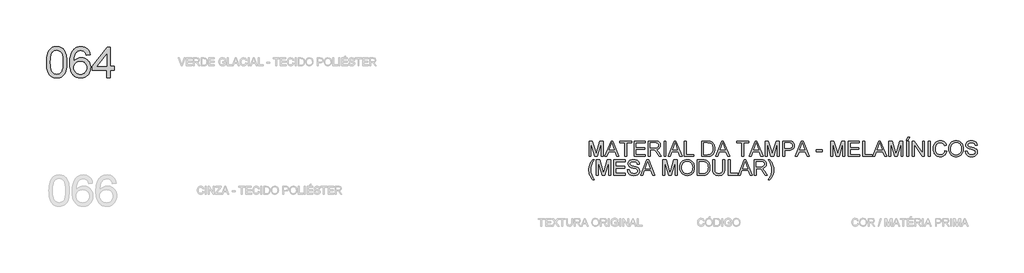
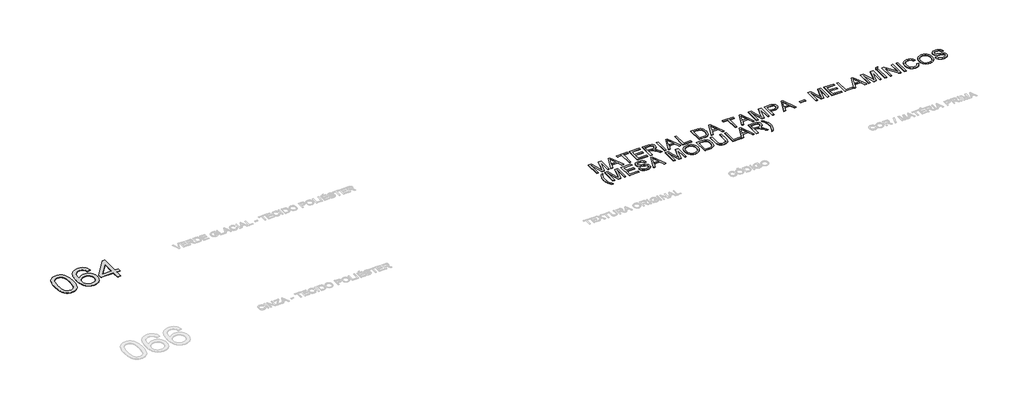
# One storey, part 38 of 67: 2 proxies.
"""IFC4 building model written with IfcOpenShell, lengths in millimetres."""

from ifc_helpers import new_model, si_unit, origin, origin_with_axes, place, context, project, spatial, polyline, outline, extrude, element, save

model = new_model("IFC4")

# Units and contexts
model_context = context("Model", 3, world=origin())
ifc_project = project(units=[si_unit("LENGTHUNIT", "METRE", prefix="MILLI")], contexts=[model_context])

# Site, building, storey
site = spatial("IfcSite", under=ifc_project)
building = spatial("IfcBuilding", under=site)
storey = spatial("IfcBuildingStorey", under=building, Name="Marelli - Linha COLAB - Planta Baixa", Elevation=0.0)

# Proxies
placement = place(None, origin())
element("IfcBuildingElementProxy", 1, Name="1200mm Arial", ObjectType="1200mm Arial", at=placement, inside=storey, context=model_context, shape_type="SweptSolid", body=[
    extrude(outline(polyline([(-275.30917, -77395.792664), (-272.540858, -77294.4319773), (-264.2359219, -77202.8385576), (-250.3943618, -77121.0124048), (-231.0161777, -77048.953519), (-206.1841431, -76986.073289), (-175.9810313, -76931.7831035), (-140.4068423, -76886.0829627), (-99.4615763, -76848.9728664), (-53.0072773, -76820.2596767), (-0.9059898, -76799.7502555), (56.8422864, -76787.4446027), (120.2375512, -76783.3427185), (167.8782696, -76785.7707396), (213.0909668, -76793.0548031), (255.8756429, -76805.194909), (296.2322977, -76822.1910572), (333.1860442, -76843.7581391), (365.7619948, -76869.6110463), (393.9601498, -76899.7497788), (417.7805089, -76934.1743365), (438.4186889, -76972.7467637), (457.070306, -77015.3291046), (488.413852, -77112.5235278), (500.388411, -77169.6831928), (508.9416673, -77235.9479371), (514.0736212, -77311.3177609), (515.7842725, -77395.792664), (513.0435516, -77496.5095573), (504.821389, -77587.6431245), (491.1177847, -77669.1933658), (471.9327386, -77741.1602811), (447.293842, -77804.0681023), (417.228686, -77858.4410612), (381.7372705, -77904.2791578), (340.8195956, -77941.5823921), (294.3101143, -77970.4887199), (242.0432798, -77991.1360968), (184.0190922, -78003.524523), (120.2375512, -78007.6539984), (77.5632398, -78005.8605737), (37.2433731, -78000.4802995), (-0.7220488, -77991.5131759), (-36.3330259, -77978.9592028), (-69.5895583, -77962.8183803), (-100.4916459, -77943.0907083), (-129.0392887, -77919.7761868), (-155.2324867, -77892.8748159), (-183.3754594, -77850.2786794), (-207.7660357, -77802.0999336), (-228.4042156, -77748.3385785), (-245.2899992, -77688.9946142), (-258.4233864, -77624.0680406), (-267.8043773, -77553.5588577), (-273.4329718, -77477.4670655), (-275.30917, -77395.792664)]), holes=[polyline([(-124.6247047, -77395.4983584), (-120.2101208, -77526.4919399), (-106.966369, -77632.5247279), (-97.0335551, -77676.1808245), (-84.8934493, -77713.5967226), (-70.5460515, -77744.7724225), (-53.9913617, -77769.7079239), (-16.614551, -77807.884878), (24.8825381, -77835.1541309), (70.4999055, -77851.5156826), (120.2375512, -77856.9695332), (169.975197, -77851.4972885), (215.5925644, -77835.0805545), (257.0896535, -77807.7193311), (294.4664642, -77769.4136183), (311.0211539, -77744.418336), (325.3685518, -77713.2104465), (337.5086576, -77675.7899498), (347.4414715, -77632.1568459), (360.6852233, -77526.2528166), (365.0998072, -77395.4983584), (360.8323761, -77267.9720648), (348.0300827, -77163.8062779), (338.4283626, -77120.4835744), (326.6929269, -77083.0009976), (312.8237757, -77051.3585475), (296.8209089, -77025.5562241), (260.0694976, -76985.5122689), (218.094162, -76956.9094438), (170.894902, -76939.7477487), (118.4717177, -76934.0271837), (68.9915893, -76939.067167), (24.1467741, -76954.187117), (-16.062728, -76979.3870337), (-51.6369169, -77014.666917), (-68.7434297, -77043.2145599), (-83.5690741, -77077.2068562), (-96.1138501, -77116.6438061), (-106.3777578, -77161.5254095), (-120.062968, -77267.6225769), (-124.6247047, -77395.4983584)])]), origin_with_axes(), (0.0, 0.0, 1.0), 10.0),
    extrude(outline(polyline([(1419.8910638, -77103.5472071), (1269.2065986, -77122.3827652), (1258.1333505, -77082.0812927), (1244.9263869, -77047.7027202), (1229.5857077, -77019.2470479), (1212.1113129, -76996.7142757), (1179.7193033, -76969.2886729), (1143.7588382, -76949.6989567), (1104.2299178, -76937.9451269), (1061.1325421, -76934.0271837), (1025.5951414, -76936.3080521), (991.0878102, -76943.1506572), (957.6105487, -76954.554999), (925.1633567, -76970.5210776), (895.5580531, -76996.6315022), (868.5463176, -77028.1681863), (844.1281502, -77065.1311297), (822.3035508, -77107.5203326), (804.2313478, -77158.1316981), (791.0703695, -77219.7611293), (782.8206157, -77292.4086263), (779.4820866, -77376.0741891), (808.2044734, -77338.2099347), (839.9250984, -77305.5512106), (874.6439617, -77278.0980167), (912.3610633, -77255.8503531), (952.0647276, -77238.6610669), (992.7432792, -77226.3830053), (1034.3967181, -77219.0161683), (1077.0250443, -77216.560556), (1113.9236084, -77218.2390176), (1149.424221, -77223.2744024), (1183.5268819, -77231.6667104), (1216.2315913, -77243.4159416), (1247.5383491, -77258.5220961), (1277.4471553, -77276.9851737), (1305.9580099, -77298.8051745), (1333.0709129, -77323.9820986), (1357.8339697, -77351.81697), (1379.2952856, -77381.6108131), (1397.4548606, -77413.3636278), (1412.3126947, -77447.0754142), (1423.8687879, -77482.7461721), (1432.1231401, -77520.3759017), (1437.0757515, -77559.9646029), (1438.726622, -77601.5122757), (1435.6180191, -77656.4462547), (1426.2922105, -77709.4120649), (1410.7491962, -77760.4097065), (1388.9889762, -77809.4391794), (1361.7841027, -77854.6702707), (1329.9071278, -77894.2727675), (1293.3580516, -77928.2466698), (1252.136874, -77956.5919775), (1207.1265119, -77978.9316116), (1159.209882, -77994.8884932), (1108.3869844, -78004.4626221), (1054.657819, -78007.6539984), (1008.6564748, -78005.5386769), (964.8302328, -77999.1927125), (923.1790932, -77988.6161052), (883.7030558, -77973.8088549), (846.4021208, -77954.7709616), (811.276288, -77931.5024254), (778.3255576, -77904.0032463), (747.5499294, -77872.2734242), (719.7173572, -77835.6875598), (695.5957947, -77793.6202536), (675.1852417, -77746.0715057), (658.4856984, -77693.0413161), (645.4971647, -77634.5296848), (636.2196406, -77570.5366117), (630.6531262, -77501.062097), (628.7976214, -77426.1061404), (630.8577606, -77342.1784618), (637.0381781, -77264.1828803), (647.3388739, -77192.1193959), (661.7598481, -77125.9880088), (680.3011007, -77065.7887188), (702.9626316, -77011.521526), (729.7444409, -76963.1864303), (760.6465284, -76920.7834319), (790.6611007, -76888.5707647), (823.1680735, -76860.6531198), (858.1674468, -76837.0304971), (895.6592207, -76817.7028968), (935.643395, -76802.6703188), (978.1199699, -76791.9327631), (1023.0889453, -76785.4902296), (1070.5503212, -76783.3427185), (1139.9512596, -76788.6586133), (1202.7671103, -76804.6062978), (1258.9978732, -76831.1857719), (1308.6435485, -76868.3970358), (1350.3613667, -76914.9892904), (1382.8085587, -76969.7117372), (1405.9851244, -77032.5643761), (1419.8910638, -77103.5472071)]), holes=[polyline([(779.4820866, -77599.157831), (781.6617874, -77632.9202011), (788.2008899, -77665.9284131), (799.099394, -77698.182467), (814.3572997, -77729.6823629), (833.2296461, -77758.9473756), (854.971472, -77784.4967801), (879.5827775, -77806.3305766), (907.0635625, -77824.4487648), (937.2390832, -77838.676601), (969.9345955, -77848.8393411), (1005.1500995, -77854.9369852), (1042.8855951, -77856.9695332), (1095.2627942, -77852.7572843), (1142.3240984, -77840.1205378), (1184.0695078, -77819.0592936), (1220.4990224, -77789.5735517), (1250.0491437, -77752.8589286), (1271.1563732, -77710.1110407), (1283.8207108, -77661.3298882), (1288.0421567, -77606.5154709), (1283.8758931, -77553.8439662), (1271.3771024, -77507.0769676), (1250.5457844, -77466.214475), (1221.3819392, -77431.2564884), (1184.84206, -77403.2514715), (1141.8826401, -77383.247888), (1092.5036792, -77371.2457379), (1036.7051776, -77367.2450212), (985.0269544, -77371.2457379), (937.4138271, -77383.247888), (893.865796, -77403.2514715), (854.3828608, -77431.2564884), (821.6137721, -77465.7546225), (798.2072802, -77505.2375576), (784.163385, -77549.7052938), (779.4820866, -77599.157831)])]), origin_with_axes(), (0.0, 0.0, 1.0), 10.0),
    extrude(outline(polyline([(2060.300041, -77988.8184403), (2060.300041, -77706.285068), (1514.0688546, -77706.285068), (1514.0688546, -77555.6006027), (2097.9711573, -76802.1782766), (2210.9845062, -76802.1782766), (2210.9845062, -77555.6006027), (2361.6689715, -77555.6006027), (2361.6689715, -77706.285068), (2210.9845062, -77706.285068), (2210.9845062, -77988.8184403), (2060.300041, -77988.8184403)]), holes=[polyline([(2060.300041, -77555.6006027), (2060.300041, -77090.0091496), (1699.4813801, -77555.6006027), (2060.300041, -77555.6006027)])]), origin_with_axes(), (0.0, 0.0, 1.0), 10.0),
])
element("IfcBuildingElementProxy", 2, Name="600mm Arial", ObjectType="600mm Arial", at=placement, inside=storey, context=model_context, shape_type="SweptSolid", body=[
    extrude(outline(polyline([(20848.8543952, -81064.6418665), (20848.8543952, -80461.9040056), (20978.4960103, -80461.9040056), (21101.8100551, -80886.7341337), (21126.678878, -80975.4672709), (21153.60784, -80879.3764938), (21274.8617456, -80461.9040056), (21404.5033607, -80461.9040056), (21404.5033607, -81064.6418665), (21329.1611281, -81064.6418665), (21329.1611281, -80537.2462382), (21177.7408989, -81064.6418665), (21075.6168571, -81064.6418665), (20924.1966278, -80537.2462382), (20924.1966278, -81064.6418665), (20848.8543952, -81064.6418665)])), origin_with_axes(), (0.0, 0.0, 1.0), 10.0),
    extrude(outline(polyline([(21466.1603831, -81064.6418665), (21706.755208, -80461.9040056), (21770.9138279, -80461.9040056), (22011.5086528, -81064.6418665), (21931.898989, -81064.6418665), (21862.8843267, -80876.286285), (21614.6375564, -80876.286285), (21545.7700469, -81064.6418665), (21466.1603831, -81064.6418665)]), holes=[polyline([(21642.3022824, -80800.9440524), (21835.3667535, -80800.9440524), (21781.067371, -80652.7611847), (21738.834518, -80537.2462382), (21701.3105544, -80639.8117385), (21642.3022824, -80800.9440524)])]), origin_with_axes(), (0.0, 0.0, 1.0), 10.0),
    extrude(outline(polyline([(22242.6856985, -81064.6418665), (22242.6856985, -80537.2462382), (22044.9123379, -80537.2462382), (22044.9123379, -80461.9040056), (22515.8012918, -80461.9040056), (22515.8012918, -80537.2462382), (22318.0279312, -80537.2462382), (22318.0279312, -81064.6418665), (22242.6856985, -81064.6418665)])), origin_with_axes(), (0.0, 0.0, 1.0), 10.0),
    extrude(outline(polyline([(22600.5613035, -81064.6418665), (22600.5613035, -80461.9040056), (23033.779141, -80461.9040056), (23033.779141, -80537.2462382), (22675.9035361, -80537.2462382), (22675.9035361, -80716.1840407), (23014.9435828, -80716.1840407), (23014.9435828, -80791.5262733), (22675.9035361, -80791.5262733), (22675.9035361, -80989.2996339), (23043.1969201, -80989.2996339), (23043.1969201, -81064.6418665), (22600.5613035, -81064.6418665)])), origin_with_axes(), (0.0, 0.0, 1.0), 10.0),
    extrude(outline(polyline([(23156.210269, -81064.6418665), (23156.210269, -80461.9040056), (23415.9349576, -80461.9040056), (23485.7405662, -80465.9691017), (23536.5266756, -80478.1643898), (23556.1255889, -80487.8580804), (23573.6459689, -80500.6787679), (23589.0878156, -80516.6264524), (23602.4511291, -80535.7011339), (23613.2346701, -80556.8773412), (23620.9371994, -80579.1296034), (23625.5587169, -80602.4579204), (23627.0992228, -80626.8622923), (23624.5470415, -80657.8195622), (23616.8904974, -80686.2384463), (23604.1295907, -80712.1189447), (23586.2643213, -80735.4610572), (23563.064763, -80755.519823), (23534.3009895, -80771.550281), (23499.9730008, -80783.5524311), (23460.080797, -80791.5262733), (23484.9128317, -80807.7498693), (23502.9022612, -80823.7527361), (23533.7675606, -80860.3569946), (23563.9706724, -80901.3022607), (23664.4760335, -81064.6418665), (23576.9201187, -81064.6418665), (23498.4876773, -80939.709141), (23441.83385, -80857.0092685), (23420.7726058, -80832.8946037), (23402.0290181, -80817.9402006), (23366.1973118, -80803.5928028), (23322.4929308, -80800.9440524), (23231.5525016, -80800.9440524), (23231.5525016, -81064.6418665), (23156.210269, -81064.6418665)]), holes=[polyline([(23231.5525016, -80725.6018198), (23400.1896082, -80725.6018198), (23448.6212728, -80722.9346753), (23486.2004186, -80714.9332419), (23514.4905441, -80701.0640907), (23535.0551476, -80680.7937928), (23547.5815295, -80656.2744578), (23551.7569902, -80629.6581954), (23549.7658289, -80610.3903759), (23543.792345, -80592.9067841), (23533.8365385, -80577.20742), (23519.8984094, -80563.2922835), (23501.656061, -80551.8971387), (23478.7875964, -80543.7577496), (23451.2930158, -80538.8741161), (23419.1723191, -80537.2462382), (23231.5525016, -80537.2462382), (23231.5525016, -80725.6018198)])]), origin_with_axes(), (0.0, 0.0, 1.0), 10.0),
    extrude(outline(polyline([(23768.3659089, -81064.6418665), (23768.3659089, -80461.9040056), (23843.7081416, -80461.9040056), (23843.7081416, -81064.6418665), (23768.3659089, -81064.6418665)])), origin_with_axes(), (0.0, 0.0, 1.0), 10.0),
    extrude(outline(polyline([(23924.2007221, -81064.6418665), (24164.7955469, -80461.9040056), (24228.9541669, -80461.9040056), (24469.5489918, -81064.6418665), (24389.939328, -81064.6418665), (24320.9246657, -80876.286285), (24072.6778954, -80876.286285), (24003.8103859, -81064.6418665), (23924.2007221, -81064.6418665)]), holes=[polyline([(24100.3426214, -80800.9440524), (24293.4070925, -80800.9440524), (24239.10771, -80652.7611847), (24196.8748569, -80537.2462382), (24159.3508934, -80639.8117385), (24100.3426214, -80800.9440524)])]), origin_with_axes(), (0.0, 0.0, 1.0), 10.0),
    extrude(outline(polyline([(24550.0415723, -81064.6418665), (24550.0415723, -80461.9040056), (24625.3838049, -80461.9040056), (24625.3838049, -80989.2996339), (24926.7527354, -80989.2996339), (24926.7527354, -81064.6418665), (24550.0415723, -81064.6418665)])), origin_with_axes(), (0.0, 0.0, 1.0), 10.0),
    extrude(outline(polyline([(25246.957224, -81064.6418665), (25246.957224, -80461.9040056), (25454.8841276, -80461.9040056), (25517.0193966, -80464.0745094), (25562.452823, -80470.5860207), (25610.4982116, -80487.3246515), (25651.0388075, -80513.7017906), (25673.3784416, -80535.2596755), (25692.7198375, -80559.6134636), (25709.0629952, -80586.7631548), (25722.4079145, -80616.7087492), (25732.7729897, -80649.1743353), (25740.1766149, -80683.8840015), (25746.099515, -80760.0355745), (25742.0896013, -80824.7276234), (25730.05986, -80881.6573621), (25711.7393367, -80930.125815), (25688.8570766, -80969.4340062), (25662.5167257, -81000.4648525), (25633.8219301, -81024.1012707), (25600.8780974, -81041.6308477), (25561.7906354, -81054.3411707), (25516.4859677, -81062.0666926), (25464.8905179, -81064.6418665), (25246.957224, -81064.6418665)]), holes=[polyline([(25322.2994566, -80989.2996339), (25455.6198916, -80989.2996339), (25510.7654027, -80986.5773072), (25552.5935856, -80978.4103269), (25584.1578607, -80965.2769396), (25608.5116488, -80947.6553921), (25634.6864528, -80915.0426532), (25654.3497454, -80872.8281942), (25666.6553982, -80820.8280742), (25670.7572824, -80758.8583521), (25668.747727, -80715.1171829), (25662.7190608, -80676.7470908), (25652.6712838, -80643.7480759), (25638.604396, -80616.120138), (25621.6588316, -80593.2378779), (25602.9750248, -80574.4758962), (25582.5529755, -80559.8341928), (25560.3926839, -80549.3127677), (25517.0561848, -80540.2628706), (25453.5597525, -80537.2462382), (25322.2994566, -80537.2462382), (25322.2994566, -80989.2996339)])]), origin_with_axes(), (0.0, 0.0, 1.0), 10.0),
    extrude(outline(polyline([(25779.5032002, -81064.6418665), (26020.098025, -80461.9040056), (26084.256645, -80461.9040056), (26324.8514698, -81064.6418665), (26245.2418061, -81064.6418665), (26176.2271438, -80876.286285), (25927.9803734, -80876.286285), (25859.1128639, -81064.6418665), (25779.5032002, -81064.6418665)]), holes=[polyline([(25955.6450995, -80800.9440524), (26148.7095705, -80800.9440524), (26094.410188, -80652.7611847), (26052.177335, -80537.2462382), (26014.6533715, -80639.8117385), (25955.6450995, -80800.9440524)])]), origin_with_axes(), (0.0, 0.0, 1.0), 10.0),
    extrude(outline(polyline([(26791.4729925, -81064.6418665), (26791.4729925, -80537.2462382), (26593.6996319, -80537.2462382), (26593.6996319, -80461.9040056), (27064.5885857, -80461.9040056), (27064.5885857, -80537.2462382), (26866.8152251, -80537.2462382), (26866.8152251, -81064.6418665), (26791.4729925, -81064.6418665)])), origin_with_axes(), (0.0, 0.0, 1.0), 10.0),
    extrude(outline(polyline([(27079.1567127, -81064.6418665), (27319.7515376, -80461.9040056), (27383.9101575, -80461.9040056), (27624.5049824, -81064.6418665), (27544.8953186, -81064.6418665), (27475.8806563, -80876.286285), (27227.633886, -80876.286285), (27158.7663765, -81064.6418665), (27079.1567127, -81064.6418665)]), holes=[polyline([(27255.298612, -80800.9440524), (27448.3630831, -80800.9440524), (27394.0637006, -80652.7611847), (27351.8308476, -80537.2462382), (27314.3068841, -80639.8117385), (27255.298612, -80800.9440524)])]), origin_with_axes(), (0.0, 0.0, 1.0), 10.0),
    extrude(outline(polyline([(27704.9975629, -81064.6418665), (27704.9975629, -80461.9040056), (27834.639178, -80461.9040056), (27957.9532228, -80886.7341337), (27982.8220457, -80975.4672709), (28009.7510077, -80879.3764938), (28131.0049133, -80461.9040056), (28260.6465284, -80461.9040056), (28260.6465284, -81064.6418665), (28185.3042958, -81064.6418665), (28185.3042958, -80537.2462382), (28033.8840666, -81064.6418665), (27931.7600248, -81064.6418665), (27780.3397955, -80537.2462382), (27780.3397955, -81064.6418665), (27704.9975629, -81064.6418665)])), origin_with_axes(), (0.0, 0.0, 1.0), 10.0),
    extrude(outline(polyline([(28392.4954355, -81064.6418665), (28392.4954355, -80461.9040056), (28615.873383, -80461.9040056), (28667.8918971, -80463.3387454), (28705.9308954, -80467.6429648), (28746.0852152, -80478.3667249), (28779.1394125, -80495.8227256), (28805.7556748, -80520.8019131), (28826.5961898, -80554.0952336), (28840.0606709, -80593.3666366), (28844.5488312, -80636.2800713), (28841.5184033, -80673.279803), (28832.4271195, -80707.3180846), (28817.2749798, -80738.3949162), (28796.0619842, -80766.5102976), (28766.9395258, -80789.815622), (28728.0589974, -80806.4622823), (28679.4203991, -80816.4502785), (28621.0237309, -80819.7796105), (28467.8376681, -80819.7796105), (28467.8376681, -81064.6418665), (28392.4954355, -81064.6418665)]), holes=[polyline([(28467.8376681, -80744.4373779), (28625.4383149, -80744.4373779), (28661.6746914, -80742.7083326), (28692.2456852, -80737.5211964), (28717.1512963, -80728.8759695), (28736.3915246, -80716.7726519), (28750.7481195, -80701.5331402), (28761.0028301, -80683.4793313), (28767.1556565, -80662.6112252), (28769.2065986, -80638.9288217), (28764.3689503, -80605.0836782), (28749.8560056, -80576.5360353), (28727.4703862, -80555.0517268), (28699.0147139, -80542.3965862), (28669.9520363, -80538.5338252), (28623.6724813, -80537.2462382), (28467.8376681, -80537.2462382), (28467.8376681, -80744.4373779)])]), origin_with_axes(), (0.0, 0.0, 1.0), 10.0),
    extrude(outline(polyline([(28877.9525164, -81064.6418665), (29118.5473412, -80461.9040056), (29182.7059612, -80461.9040056), (29423.300786, -81064.6418665), (29343.6911222, -81064.6418665), (29274.67646, -80876.286285), (29026.4296896, -80876.286285), (28957.5621801, -81064.6418665), (28877.9525164, -81064.6418665)]), holes=[polyline([(29054.0944156, -80800.9440524), (29247.1588867, -80800.9440524), (29192.8595042, -80652.7611847), (29150.6266512, -80537.2462382), (29113.1026877, -80639.8117385), (29054.0944156, -80800.9440524)])]), origin_with_axes(), (0.0, 0.0, 1.0), 10.0),
    extrude(outline(polyline([(29692.1489481, -80885.7040641), (29692.1489481, -80810.3618315), (29927.593425, -80810.3618315), (29927.593425, -80885.7040641), (29692.1489481, -80885.7040641)])), origin_with_axes(), (0.0, 0.0, 1.0), 10.0),
    extrude(outline(polyline([(30257.2156927, -81064.6418665), (30257.2156927, -80461.9040056), (30386.8573078, -80461.9040056), (30510.1713526, -80886.7341337), (30535.0401754, -80975.4672709), (30561.9691375, -80879.3764938), (30683.2230431, -80461.9040056), (30812.8646582, -80461.9040056), (30812.8646582, -81064.6418665), (30737.5224256, -81064.6418665), (30737.5224256, -80537.2462382), (30586.1021964, -81064.6418665), (30483.9781545, -81064.6418665), (30332.5579253, -80537.2462382), (30332.5579253, -81064.6418665), (30257.2156927, -81064.6418665)])), origin_with_axes(), (0.0, 0.0, 1.0), 10.0),
    extrude(outline(polyline([(30944.7135653, -81064.6418665), (30944.7135653, -80461.9040056), (31377.9314028, -80461.9040056), (31377.9314028, -80537.2462382), (31020.0557979, -80537.2462382), (31020.0557979, -80716.1840407), (31359.0958446, -80716.1840407), (31359.0958446, -80791.5262733), (31020.0557979, -80791.5262733), (31020.0557979, -80989.2996339), (31387.3491819, -80989.2996339), (31387.3491819, -81064.6418665), (30944.7135653, -81064.6418665)])), origin_with_axes(), (0.0, 0.0, 1.0), 10.0),
    extrude(outline(polyline([(31500.3625308, -81064.6418665), (31500.3625308, -80461.9040056), (31575.7047634, -80461.9040056), (31575.7047634, -80989.2996339), (31877.0736938, -80989.2996339), (31877.0736938, -81064.6418665), (31500.3625308, -81064.6418665)])), origin_with_axes(), (0.0, 0.0, 1.0), 10.0),
    extrude(outline(polyline([(31891.6418208, -81064.6418665), (32132.2366457, -80461.9040056), (32196.3952656, -80461.9040056), (32436.9900905, -81064.6418665), (32357.3804267, -81064.6418665), (32288.3657644, -80876.286285), (32040.1189941, -80876.286285), (31971.2514846, -81064.6418665), (31891.6418208, -81064.6418665)]), holes=[polyline([(32067.7837201, -80800.9440524), (32260.8481912, -80800.9440524), (32206.5488087, -80652.7611847), (32164.3159557, -80537.2462382), (32126.7919922, -80639.8117385), (32067.7837201, -80800.9440524)])]), origin_with_axes(), (0.0, 0.0, 1.0), 10.0),
    extrude(outline(polyline([(32517.482671, -81064.6418665), (32517.482671, -80461.9040056), (32647.1242861, -80461.9040056), (32770.4383309, -80886.7341337), (32795.3071538, -80975.4672709), (32822.2361158, -80879.3764938), (32943.4900215, -80461.9040056), (33073.1316366, -80461.9040056), (33073.1316366, -81064.6418665), (32997.7894039, -81064.6418665), (32997.7894039, -80537.2462382), (32846.3691747, -81064.6418665), (32744.2451329, -81064.6418665), (32592.8249037, -80537.2462382), (32592.8249037, -81064.6418665), (32517.482671, -81064.6418665)])), origin_with_axes(), (0.0, 0.0, 1.0), 10.0),
    extrude(outline(polyline([(33214.3983227, -81064.6418665), (33214.3983227, -80461.9040056), (33289.7405553, -80461.9040056), (33289.7405553, -81064.6418665), (33214.3983227, -81064.6418665)])), origin_with_axes(), (0.0, 0.0, 1.0), 10.0),
    extrude(outline(polyline([(33195.5627645, -80424.2328893), (33252.069439, -80311.2195404), (33346.2472298, -80311.2195404), (33252.069439, -80424.2328893), (33195.5627645, -80424.2328893)])), origin_with_axes(), (0.0, 0.0, 1.0), 10.0),
    extrude(outline(polyline([(33440.4250205, -81064.6418665), (33440.4250205, -80461.9040056), (33521.0647539, -80461.9040056), (33835.9717418, -80939.4148354), (33835.9717418, -80461.9040056), (33911.3139744, -80461.9040056), (33911.3139744, -81064.6418665), (33830.674241, -81064.6418665), (33515.7672532, -80586.983884), (33515.7672532, -81064.6418665), (33440.4250205, -81064.6418665)])), origin_with_axes(), (0.0, 0.0, 1.0), 10.0),
    extrude(outline(polyline([(34052.5806605, -81064.6418665), (34052.5806605, -80461.9040056), (34127.9228931, -80461.9040056), (34127.9228931, -81064.6418665), (34052.5806605, -81064.6418665)])), origin_with_axes(), (0.0, 0.0, 1.0), 10.0),
    extrude(outline(polyline([(34702.4074168, -80850.3873925), (34777.7496494, -80869.8115619), (34762.8412316, -80916.6659325), (34742.9848009, -80957.6066), (34718.1803573, -80992.6335645), (34688.427901, -81021.7468259), (34654.3988164, -81044.6336845), (34616.7644883, -81060.9814407), (34575.5249167, -81070.7900944), (34530.6801014, -81074.0596456), (34484.7362388, -81071.5856392), (34443.2897335, -81064.1636199), (34406.3405856, -81051.7935879), (34373.8887951, -81034.4755429), (34345.4883051, -81012.4670026), (34320.6930586, -80986.0254842), (34299.5030557, -80955.1509877), (34281.9182963, -80919.8435132), (34268.1089259, -80881.629771), (34258.2450899, -80842.0364713), (34252.3267883, -80801.063614), (34250.3540211, -80758.7111993), (34252.5843057, -80713.2685759), (34259.2751595, -80670.8241907), (34270.4265825, -80631.3780438), (34286.0385747, -80594.9301351), (34305.7616481, -80562.0828714), (34329.246315, -80533.4386596), (34356.4925753, -80508.9974995), (34387.5004289, -80488.7593913), (34421.2168138, -80472.8898817), (34456.5886676, -80461.5545177), (34493.6159904, -80454.7532994), (34532.2987822, -80452.4862266), (34575.3915594, -80455.4200855), (34614.9066842, -80464.2216622), (34650.8441566, -80478.8909568), (34683.2039766, -80499.4279691), (34711.4527153, -80525.2900734), (34735.0569439, -80555.9346436), (34754.0166622, -80591.3616797), (34768.3318703, -80631.5711818), (34692.9896377, -80649.5238232), (34681.1254434, -80619.895527), (34666.8700161, -80594.5806472), (34650.2233558, -80573.5791838), (34631.1854625, -80556.8911368), (34609.6459717, -80544.1762153), (34585.4945187, -80535.0941286), (34558.7311036, -80529.6448765), (34529.3557263, -80527.8284592), (34495.556568, -80529.8426131), (34464.6452833, -80535.8850749), (34436.6218723, -80545.9558445), (34411.486335, -80560.0549219), (34389.5559696, -80577.5477108), (34371.1480742, -80597.7996147), (34356.262649, -80620.8106335), (34344.8996939, -80646.5807672), (34330.4971138, -80701.7262783), (34325.6962537, -80758.5640465), (34331.3800306, -80828.16732), (34338.4847516, -80859.4372896), (34348.431361, -80888.3528144), (34361.3808073, -80914.3390789), (34377.4940387, -80936.8212673), (34396.7710552, -80955.7993797), (34419.2118569, -80971.2734162), (34443.7265934, -80983.2801648), (34469.2254141, -80991.8564138), (34495.7083193, -80997.0021632), (34523.1753087, -80998.717413), (34555.9306019, -80996.3813623), (34586.0647358, -80989.3732103), (34613.5777105, -80977.692957), (34638.469526, -80961.3406023), (34660.1515711, -80940.3897227), (34678.0352346, -80914.9138945), (34692.1205165, -80884.9131178), (34702.4074168, -80850.3873925)])), origin_with_axes(), (0.0, 0.0, 1.0), 10.0),
    extrude(outline(polyline([(34853.091882, -80771.2191872), (34858.1134713, -80700.5214648), (34873.178239, -80637.9355403), (34898.2861851, -80583.4614139), (34914.6063501, -80559.2662749), (34933.4373098, -80537.0990854), (34976.5254884, -80500.0809597), (35025.4445968, -80473.6394413), (35080.1946347, -80457.7745302), (35140.7756022, -80452.4862266), (35181.3253952, -80454.96943), (35219.833443, -80462.4190404), (35256.2997458, -80474.8350578), (35290.7243035, -80492.217482), (35322.1414259, -80514.0420814), (35349.5854227, -80539.784624), (35373.056294, -80569.4451099), (35392.5540397, -80603.023539), (35407.8763248, -80639.7565562), (35418.8208142, -80678.8808064), (35425.3875078, -80720.3962895), (35427.5764057, -80764.3030057), (35425.2725447, -80808.7891359), (35418.3609617, -80850.8656391), (35406.8416567, -80890.5325153), (35390.7146298, -80927.7897643), (35370.3615584, -80961.653302), (35346.1641202, -80991.1390439), (35318.1223151, -81016.2469901), (35286.2361431, -81036.9771405), (35251.7610017, -81053.2007365), (35215.952288, -81064.7890193), (35178.810002, -81071.741989), (35140.3341439, -81074.0596456), (35099.0761781, -81071.4982672), (35060.0622925, -81063.814132), (35023.2924871, -81051.0072401), (34988.7667618, -81033.0775913), (34957.3864276, -81010.7195631), (34930.0527954, -80984.6275326), (34906.7658651, -80954.8014998), (34887.5256368, -80921.2414648), (34872.4608691, -80885.2947954), (34861.7003207, -80848.3088593), (34855.2439917, -80810.2836565), (34853.091882, -80771.2191872)]), holes=[polyline([(34928.4341146, -80771.9549512), (34932.2003066, -80821.9041291), (34943.4988823, -80866.2431065), (34962.329842, -80904.9718836), (34988.6931854, -80938.0904602), (35020.7403057, -80964.614752), (35056.6225958, -80983.5606748), (35096.3400558, -80994.9282284), (35139.8926855, -80998.717413), (35184.1902762, -80994.8914402), (35224.3767856, -80983.413522), (35260.4522138, -80964.2836582), (35292.4165607, -80937.501849), (35318.5867661, -80903.6842966), (35337.27977, -80863.4472034), (35348.4955723, -80816.7905693), (35352.2341731, -80763.7143945), (35350.6338864, -80729.2346545), (35345.8330264, -80697.0173888), (35337.831593, -80667.0625973), (35326.6295862, -80639.3702801), (35312.3511663, -80614.3037207), (35295.1204933, -80592.2262024), (35274.9375674, -80573.1377254), (35251.8023884, -80557.0382896), (35226.4323263, -80544.2589888), (35199.544751, -80535.1309168), (35171.1396624, -80529.6540736), (35141.2170606, -80527.8284592), (35099.1773456, -80531.3463307), (35060.1726571, -80541.8999455), (35024.202995, -80559.4893034), (34991.2683594, -80584.1144044), (34963.7783773, -80616.9616681), (34944.1426758, -80659.2175137), (34932.3612549, -80710.8819414), (34928.4341146, -80771.9549512)])]), origin_with_axes(), (0.0, 0.0, 1.0), 10.0),
    extrude(outline(polyline([(35502.9186383, -80857.4507268), (35578.2608709, -80857.4507268), (35586.9060978, -80899.2605156), (35602.5410826, -80932.8665359), (35626.9316589, -80959.5379805), (35661.8436602, -80980.5440424), (35704.5179717, -80994.1740704), (35752.1954782, -80998.717413), (35794.1708139, -80995.2777163), (35830.9222252, -80984.9586264), (35860.7022727, -80968.6246658), (35881.7635169, -80947.1403573), (35894.2898989, -80922.4738695), (35898.4653595, -80896.5933711), (35895.3383626, -80871.3750604), (35885.9573717, -80849.5780522), (35866.9010843, -80830.9816173), (35834.7481979, -80815.3650266), (35725.045787, -80786.5966546), (35653.0328864, -80767.5587613), (35606.9556665, -80749.4405731), (35569.4500971, -80724.0935036), (35542.870623, -80693.375357), (35527.0333031, -80657.9483209), (35521.7541965, -80618.4745828), (35523.3866728, -80596.0383796), (35528.2841019, -80574.3471375), (35536.4464836, -80553.4008564), (35547.8738181, -80533.1995363), (35562.4373466, -80514.5663132), (35580.0083104, -80498.3243232), (35600.5867095, -80484.473566), (35624.1725439, -80473.0140419), (35677.1843394, -80457.6181804), (35735.8615176, -80452.4862266), (35799.4315264, -80457.8573037), (35855.0552841, -80473.9705351), (35879.3906781, -80485.9726852), (35900.7462279, -80500.4948269), (35919.1219335, -80517.5369604), (35934.517795, -80537.0990854), (35946.8142507, -80558.6109851), (35955.891739, -80581.5024423), (35961.7502597, -80605.7734569), (35964.389813, -80631.424029), (35889.0475804, -80631.424029), (35884.0075971, -80607.3829406), (35875.2152174, -80586.4688492), (35862.6704414, -80568.6817547), (35846.373269, -80554.0216572), (35826.0201976, -80542.5621331), (35801.3077246, -80534.3767587), (35772.2358499, -80529.465534), (35738.8045736, -80527.8284592), (35704.3064395, -80529.4471399), (35674.8298946, -80534.3031823), (35650.374939, -80542.3965862), (35630.9415726, -80553.7273516), (35616.1343223, -80567.3481825), (35605.557715, -80582.3117827), (35599.2117505, -80598.6181521), (35597.0964291, -80616.2672908), (35598.5955482, -80631.4516202), (35603.0929056, -80645.2196038), (35610.5885012, -80657.5712418), (35621.0823351, -80668.5065341), (35637.6002367, -80678.8624123), (35663.6094938, -80689.3286551), (35744.1020743, -80710.5922344), (35827.1698288, -80730.7889559), (35877.4225094, -80748.4105035), (35920.3727323, -80775.7441357), (35936.9780059, -80791.8113819), (35950.3367208, -80809.4789147), (35960.605227, -80828.6547637), (35967.9398743, -80849.2469584), (35973.8075921, -80894.6803848), (35972.1199335, -80918.2478251), (35967.0569575, -80941.1254867), (35958.6186642, -80963.3133695), (35946.8050537, -80984.8114736), (35931.8230594, -81004.7874659), (35913.8796151, -81022.4090135), (35892.9747207, -81037.6761163), (35869.1083763, -81050.5887743), (35842.9749591, -81060.8572805), (35815.2688463, -81068.1919278), (35755.1385342, -81074.0596456), (35716.5982967, -81072.477753), (35681.3230119, -81067.7320753), (35649.3126798, -81059.8226124), (35620.5673004, -81048.7493643), (35594.9121297, -81034.493937), (35572.1724239, -81017.0379364), (35552.3481829, -80996.3813623), (35535.4394067, -80972.5242149), (35521.8185758, -80946.2390464), (35511.8581708, -80918.2984089), (35505.5581916, -80888.7023023), (35502.9186383, -80857.4507268)])), origin_with_axes(), (0.0, 0.0, 1.0), 10.0),
    extrude(outline(polyline([(20990.1210814, -81966.010797), (20959.7064374, -81926.6566205), (20931.7382087, -81884.0834767), (20906.2163953, -81838.2913653), (20883.1409972, -81789.2802865), (20864.0203305, -81738.1998715), (20850.3627114, -81686.1997514), (20842.16814, -81633.2799264), (20839.4366161, -81579.4403964), (20841.4783612, -81532.1215748), (20847.6035964, -81485.8144287), (20857.8123218, -81440.518958), (20872.1045373, -81396.2351629), (20893.8279691, -81345.4490534), (20920.7385371, -81294.7733086), (20952.8362412, -81244.2079283), (20990.1210814, -81193.7529127), (21046.6277558, -81193.7529127), (21002.2979754, -81265.3795372), (20976.1415656, -81313.0938319), (20952.0820831, -81369.7476592), (20933.7615597, -81428.7559312), (20919.5245265, -81504.134952), (20914.7788488, -81579.8818548), (20916.8389879, -81628.1801623), (20923.0194055, -81676.4692727), (20933.3201013, -81724.749186), (20947.7410755, -81773.0199023), (20966.2823281, -81821.2814216), (20988.943859, -81869.5337437), (21015.7256682, -81917.7768689), (21046.6277558, -81966.010797), (20990.1210814, -81966.010797)])), origin_with_axes(), (0.0, 0.0, 1.0), 10.0),
    extrude(outline(polyline([(21131.3877675, -81796.4907736), (21131.3877675, -81193.7529127), (21261.0293826, -81193.7529127), (21384.3434274, -81618.5830407), (21409.2122503, -81707.316178), (21436.1412123, -81611.2254008), (21557.3951179, -81193.7529127), (21687.036733, -81193.7529127), (21687.036733, -81796.4907736), (21611.6945004, -81796.4907736), (21611.6945004, -81269.0951453), (21460.2742712, -81796.4907736), (21358.1502293, -81796.4907736), (21206.7300001, -81269.0951453), (21206.7300001, -81796.4907736), (21131.3877675, -81796.4907736)])), origin_with_axes(), (0.0, 0.0, 1.0), 10.0),
    extrude(outline(polyline([(21818.8856401, -81796.4907736), (21818.8856401, -81193.7529127), (22252.1034776, -81193.7529127), (22252.1034776, -81269.0951453), (21894.2278727, -81269.0951453), (21894.2278727, -81448.0329478), (22233.2679195, -81448.0329478), (22233.2679195, -81523.3751804), (21894.2278727, -81523.3751804), (21894.2278727, -81721.148541), (22261.5212567, -81721.148541), (22261.5212567, -81796.4907736), (21818.8856401, -81796.4907736)])), origin_with_axes(), (0.0, 0.0, 1.0), 10.0),
    extrude(outline(polyline([(22346.2812684, -81589.2996339), (22421.623501, -81589.2996339), (22430.2687279, -81631.1094227), (22445.9037127, -81664.7154429), (22470.294289, -81691.3868876), (22505.2062903, -81712.3929495), (22547.8806017, -81726.0229774), (22595.5581083, -81730.5663201), (22637.533444, -81727.1266234), (22674.2848553, -81716.8075334), (22704.0649028, -81700.4735729), (22725.126147, -81678.9892643), (22737.652529, -81654.3227766), (22741.8279896, -81628.4422782), (22738.7009926, -81603.2239674), (22729.3200018, -81581.4269592), (22710.2637144, -81562.8305244), (22678.110828, -81547.2139337), (22568.4084171, -81518.4455616), (22496.3955165, -81499.4076684), (22450.3182966, -81481.2894801), (22412.8127272, -81455.9424107), (22386.2332531, -81425.2242641), (22370.3959332, -81389.7972279), (22365.1168265, -81350.3234899), (22366.7493029, -81327.8872867), (22371.646732, -81306.1960445), (22379.8091137, -81285.2497634), (22391.2364482, -81265.0484434), (22405.7999767, -81246.4152203), (22423.3709405, -81230.1732302), (22443.9493396, -81216.3224731), (22467.535174, -81204.862949), (22520.5469695, -81189.4670875), (22579.2241477, -81184.3351336), (22642.7941565, -81189.7062108), (22698.4179142, -81205.8194421), (22722.7533082, -81217.8215922), (22744.108858, -81232.343734), (22762.4845636, -81249.3858674), (22777.8804251, -81268.9479925), (22790.1768808, -81290.4598922), (22799.2543691, -81313.3513493), (22805.1128898, -81337.622364), (22807.7524431, -81363.2729361), (22732.4102105, -81363.2729361), (22727.3702272, -81339.2318477), (22718.5778475, -81318.3177563), (22706.0330715, -81300.5306618), (22689.7358991, -81285.8705643), (22669.3828277, -81274.4110401), (22644.6703547, -81266.2256658), (22615.59848, -81261.3144411), (22582.1672037, -81259.6773662), (22547.6690696, -81261.296047), (22518.1925247, -81266.1520894), (22493.7375691, -81274.2454933), (22474.3042027, -81285.5762587), (22459.4969524, -81299.1970896), (22448.920345, -81314.1606897), (22442.5743806, -81330.4670592), (22440.4590592, -81348.1161979), (22441.9581783, -81363.3005272), (22446.4555357, -81377.0685109), (22453.9511313, -81389.4201489), (22464.4449652, -81400.3554412), (22480.9628668, -81410.7113194), (22506.9721239, -81421.1775621), (22587.4647044, -81442.4411414), (22670.5324589, -81462.637863), (22720.7851395, -81480.2594105), (22763.7353624, -81507.5930428), (22780.340636, -81523.6602889), (22793.6993509, -81541.3278217), (22803.9678571, -81560.5036707), (22811.3025044, -81581.0958654), (22817.1702222, -81626.5292918), (22815.4825636, -81650.0967321), (22810.4195876, -81672.9743937), (22801.9812943, -81695.1622766), (22790.1676838, -81716.6603807), (22775.1856895, -81736.636373), (22757.2422452, -81754.2579206), (22736.3373508, -81769.5250234), (22712.4710064, -81782.4376814), (22686.3375892, -81792.7061876), (22658.6314764, -81800.0408349), (22598.5011643, -81805.9085527), (22559.9609268, -81804.3266601), (22524.685642, -81799.5809824), (22492.6753098, -81791.6715195), (22463.9299304, -81780.5982714), (22438.2747598, -81766.3428441), (22415.535054, -81748.8868434), (22395.710813, -81728.2302694), (22378.8020368, -81704.373122), (22365.1812059, -81678.0879535), (22355.2208009, -81650.1473159), (22348.9208217, -81620.5512094), (22346.2812684, -81589.2996339)])), origin_with_axes(), (0.0, 0.0, 1.0), 10.0),
    extrude(outline(polyline([(22859.9916865, -81796.4907736), (23100.5865113, -81193.7529127), (23164.7451313, -81193.7529127), (23405.3399561, -81796.4907736), (23325.7302923, -81796.4907736), (23256.7156301, -81608.1351921), (23008.4688597, -81608.1351921), (22939.6013502, -81796.4907736), (22859.9916865, -81796.4907736)]), holes=[polyline([(23036.1335857, -81532.7929595), (23229.1980568, -81532.7929595), (23174.8986743, -81384.6100918), (23132.6658213, -81269.0951453), (23095.1418578, -81371.6606456), (23036.1335857, -81532.7929595)])]), origin_with_axes(), (0.0, 0.0, 1.0), 10.0),
    extrude(outline(polyline([(23721.2770136, -81796.4907736), (23721.2770136, -81193.7529127), (23850.9186287, -81193.7529127), (23974.2326734, -81618.5830407), (23999.1014963, -81707.316178), (24026.0304584, -81611.2254008), (24147.284364, -81193.7529127), (24276.9259791, -81193.7529127), (24276.9259791, -81796.4907736), (24201.5837465, -81796.4907736), (24201.5837465, -81269.0951453), (24050.1635173, -81796.4907736), (23948.0394754, -81796.4907736), (23796.6192462, -81269.0951453), (23796.6192462, -81796.4907736), (23721.2770136, -81796.4907736)])), origin_with_axes(), (0.0, 0.0, 1.0), 10.0),
    extrude(outline(polyline([(24380.5215489, -81503.0680943), (24385.5431382, -81432.3703718), (24400.6079059, -81369.7844474), (24425.715852, -81315.310321), (24442.036017, -81291.115182), (24460.8669767, -81268.9479925), (24503.9551554, -81231.9298668), (24552.8742637, -81205.4883484), (24607.6243016, -81189.6234373), (24668.2052691, -81184.3351336), (24708.7550621, -81186.8183371), (24747.2631099, -81194.2679475), (24783.7294127, -81206.6839648), (24818.1539704, -81224.0663891), (24849.5710928, -81245.8909885), (24877.0150896, -81271.6335311), (24900.4859609, -81301.2940169), (24919.9837066, -81334.8724461), (24935.3059917, -81371.6054633), (24946.2504811, -81410.7297135), (24952.8171747, -81452.2451966), (24955.0060726, -81496.1519127), (24952.7022116, -81540.638043), (24945.7906286, -81582.7145462), (24934.2713236, -81622.3814223), (24918.1442967, -81659.6386714), (24897.7912253, -81693.5022091), (24873.5937871, -81722.987951), (24845.551982, -81748.0958971), (24813.66581, -81768.8260476), (24779.1906686, -81785.0496436), (24743.3819549, -81796.6379264), (24706.2396689, -81803.5908961), (24667.7638108, -81805.9085527), (24626.505845, -81803.3471743), (24587.4919594, -81795.6630391), (24550.722154, -81782.8561472), (24516.1964287, -81764.9264984), (24484.8160946, -81742.5684702), (24457.4824623, -81716.4764397), (24434.195532, -81686.6504069), (24414.9553037, -81653.0903719), (24399.890536, -81617.1437024), (24389.1299876, -81580.1577663), (24382.6736586, -81542.1325636), (24380.5215489, -81503.0680943)]), holes=[polyline([(24455.8637815, -81503.8038582), (24459.6299735, -81553.7530361), (24470.9285492, -81598.0920136), (24489.7595089, -81636.8207906), (24516.1228523, -81669.9393673), (24548.1699726, -81696.4636591), (24584.0522628, -81715.4095819), (24623.7697227, -81726.7771355), (24667.3223524, -81730.5663201), (24711.6199431, -81726.7403473), (24751.8064526, -81715.2624291), (24787.8818807, -81696.1325653), (24819.8462276, -81669.3507561), (24846.016433, -81635.5332037), (24864.7094369, -81595.2961104), (24875.9252392, -81548.6394764), (24879.66384, -81495.5633015), (24878.0635533, -81461.0835616), (24873.2626933, -81428.8662958), (24865.2612599, -81398.9115044), (24854.0592531, -81371.2191872), (24839.7808332, -81346.1526277), (24822.5501602, -81324.0751095), (24802.3672343, -81304.9866325), (24779.2320553, -81288.8871967), (24753.8619932, -81276.1078959), (24726.9744179, -81266.9798238), (24698.5693293, -81261.5029806), (24668.6467275, -81259.6773662), (24626.6070125, -81263.1952378), (24587.602324, -81273.7488526), (24551.6326619, -81291.3382105), (24518.6980263, -81315.9633115), (24491.2080442, -81348.8105751), (24471.5723427, -81391.0664208), (24459.7909218, -81442.7308485), (24455.8637815, -81503.8038582)])]), origin_with_axes(), (0.0, 0.0, 1.0), 10.0),
    extrude(outline(polyline([(25058.6016424, -81796.4907736), (25058.6016424, -81193.7529127), (25266.5285461, -81193.7529127), (25328.6638151, -81195.9234165), (25374.0972415, -81202.4349278), (25422.1426301, -81219.1735586), (25462.6832259, -81245.5506976), (25485.0228601, -81267.1085825), (25504.364256, -81291.4623706), (25520.7074136, -81318.6120619), (25534.052333, -81348.5576563), (25544.4174082, -81381.0232424), (25551.8210334, -81415.7329086), (25557.7439335, -81491.8844816), (25553.7340197, -81556.5765304), (25541.7042785, -81613.5062692), (25523.3837551, -81661.9747221), (25500.501495, -81701.2829133), (25474.1611442, -81732.3137595), (25445.4663486, -81755.9501777), (25412.5225159, -81773.4797548), (25373.4350539, -81786.1900777), (25328.1303862, -81793.9155996), (25276.5349364, -81796.4907736), (25058.6016424, -81796.4907736)]), holes=[polyline([(25133.943875, -81721.148541), (25267.2643101, -81721.148541), (25322.4098212, -81718.4262142), (25364.238004, -81710.2592339), (25395.8022792, -81697.1258467), (25420.1560673, -81679.5042991), (25446.3308712, -81646.8915603), (25465.9941639, -81604.6771013), (25478.2998166, -81552.6769813), (25482.4017009, -81490.7072592), (25480.3921455, -81446.96609), (25474.3634793, -81408.5959979), (25464.3157023, -81375.5969829), (25450.2488145, -81347.9690451), (25433.3032501, -81325.086785), (25414.6194433, -81306.3248032), (25394.197394, -81291.6830998), (25372.0371023, -81281.1616748), (25328.7006033, -81272.1117777), (25265.2041709, -81269.0951453), (25133.943875, -81269.0951453), (25133.943875, -81721.148541)])]), origin_with_axes(), (0.0, 0.0, 1.0), 10.0),
    extrude(outline(polyline([(26056.8862245, -81193.7529127), (26132.2284572, -81193.7529127), (26132.2284572, -81541.4749745), (26127.1148974, -81622.9056542), (26120.7229478, -81656.5990464), (26111.7742182, -81685.6111403), (26099.4961566, -81711.0409832), (26083.1162108, -81733.9876226), (26062.6343807, -81754.4510586), (26038.0506664, -81772.4312911), (26009.3374767, -81787.0775931), (25976.4672204, -81797.5392373), (25939.4398976, -81803.8162238), (25898.2555082, -81805.9085527), (25858.0873929, -81804.0875368), (25821.7544473, -81798.6244892), (25789.2566716, -81789.5194098), (25760.5940656, -81776.7722987), (25735.762031, -81760.5716953), (25714.755969, -81741.1061392), (25697.5758799, -81718.3756305), (25684.2217634, -81692.380169), (25674.2107746, -81662.2276409), (25667.0600684, -81627.0259325), (25662.7696446, -81586.7750437), (25661.3395033, -81541.4749745), (25661.3395033, -81193.7529127), (25736.6817359, -81193.7529127), (25736.6817359, -81538.8262242), (25740.3973441, -81606.5349054), (25751.5441685, -81653.6789831), (25760.3089571, -81671.0568088), (25771.7408901, -81686.3285101), (25785.8399675, -81699.4940871), (25802.6061895, -81710.5535395), (25842.8524797, -81725.5631249), (25891.1921739, -81730.5663201), (25932.7168541, -81728.0923137), (25967.8219935, -81720.6702944), (25996.5075921, -81708.3002623), (26018.7736498, -81690.9822174), (26035.4479013, -81666.6284293), (26047.3580809, -81633.1511677), (26054.5041886, -81590.5504327), (26056.8862245, -81538.8262242), (26056.8862245, -81193.7529127)])), origin_with_axes(), (0.0, 0.0, 1.0), 10.0),
    extrude(outline(polyline([(26264.0773642, -81796.4907736), (26264.0773642, -81193.7529127), (26339.4195968, -81193.7529127), (26339.4195968, -81721.148541), (26640.7885273, -81721.148541), (26640.7885273, -81796.4907736), (26264.0773642, -81796.4907736)])), origin_with_axes(), (0.0, 0.0, 1.0), 10.0),
    extrude(outline(polyline([(26655.3566543, -81796.4907736), (26895.9514791, -81193.7529127), (26960.1100991, -81193.7529127), (27200.7049239, -81796.4907736), (27121.0952602, -81796.4907736), (27052.0805979, -81608.1351921), (26803.8338275, -81608.1351921), (26734.9663181, -81796.4907736), (26655.3566543, -81796.4907736)]), holes=[polyline([(26831.4985536, -81532.7929595), (27024.5630247, -81532.7929595), (26970.2636422, -81384.6100918), (26928.0307891, -81269.0951453), (26890.5068256, -81371.6606456), (26831.4985536, -81532.7929595)])]), origin_with_axes(), (0.0, 0.0, 1.0), 10.0),
    extrude(outline(polyline([(27281.1975045, -81796.4907736), (27281.1975045, -81193.7529127), (27540.9221931, -81193.7529127), (27610.7278017, -81197.8180088), (27661.5139111, -81210.0132969), (27681.1128244, -81219.7069875), (27698.6332044, -81232.527675), (27714.0750512, -81248.4753595), (27727.4383646, -81267.5500409), (27738.2219056, -81288.7262483), (27745.9244349, -81310.9785105), (27750.5459525, -81334.3068275), (27752.0864583, -81358.7111993), (27749.534277, -81389.6684692), (27741.877733, -81418.0873534), (27729.1168262, -81443.9678517), (27711.2515569, -81467.3099643), (27688.0519985, -81487.3687301), (27659.288225, -81503.399188), (27624.9602364, -81515.4013381), (27585.0680325, -81523.3751804), (27609.9000672, -81539.5987764), (27627.8894967, -81555.6016432), (27658.7547961, -81592.2059017), (27688.9579079, -81633.1511677), (27789.463269, -81796.4907736), (27701.9073542, -81796.4907736), (27623.4749128, -81671.558048), (27566.8210855, -81588.8581755), (27545.7598413, -81564.7435107), (27527.0162537, -81549.7891076), (27491.1845473, -81535.4417098), (27447.4801663, -81532.7929595), (27356.5397371, -81532.7929595), (27356.5397371, -81796.4907736), (27281.1975045, -81796.4907736)]), holes=[polyline([(27356.5397371, -81457.4507268), (27525.1768437, -81457.4507268), (27573.6085084, -81454.7835824), (27611.1876542, -81446.782149), (27639.4777796, -81432.9129978), (27660.0423831, -81412.6426998), (27672.5687651, -81388.1233649), (27676.7442257, -81361.5071025), (27674.7530644, -81342.239283), (27668.7795805, -81324.7556912), (27658.823774, -81309.056327), (27644.8856449, -81295.1411906), (27626.6432965, -81283.7460458), (27603.774832, -81275.6066566), (27576.2802513, -81270.7230231), (27544.1595546, -81269.0951453), (27356.5397371, -81269.0951453), (27356.5397371, -81457.4507268)])]), origin_with_axes(), (0.0, 0.0, 1.0), 10.0),
    extrude(outline(polyline([(27893.3531445, -81966.010797), (27836.84647, -81966.010797), (27867.7485576, -81917.7768689), (27894.5303668, -81869.5337437), (27917.1918978, -81821.2814216), (27935.7331503, -81773.0199023), (27950.1541245, -81724.749186), (27960.4548204, -81676.4692727), (27966.6352379, -81628.1801623), (27968.6953771, -81579.8818548), (27963.9496993, -81504.686775), (27949.7126661, -81430.0803064), (27931.7232366, -81370.9616698), (27907.7741187, -81314.2710543), (27881.5073442, -81266.0417248), (27836.84647, -81193.7529127), (27893.3531445, -81193.7529127), (27930.6379847, -81244.2079283), (27962.7356888, -81294.7733086), (27989.6462567, -81345.4490534), (28011.3696885, -81396.2351629), (28025.661904, -81440.518958), (28035.8706294, -81485.8144287), (28041.9958646, -81532.1215748), (28044.0376097, -81579.4403964), (28041.2922903, -81633.2799264), (28033.0563321, -81686.1997514), (28019.3297352, -81738.1998715), (28000.1124995, -81789.2802865), (27976.9681234, -81838.2913653), (27951.4601056, -81884.0834767), (27923.5884459, -81926.6566205), (27893.3531445, -81966.010797)])), origin_with_axes(), (0.0, 0.0, 1.0), 10.0),
])

save(model, "model.ifc")
